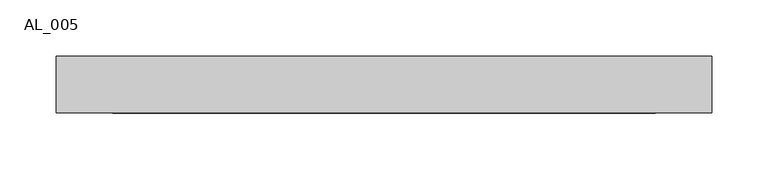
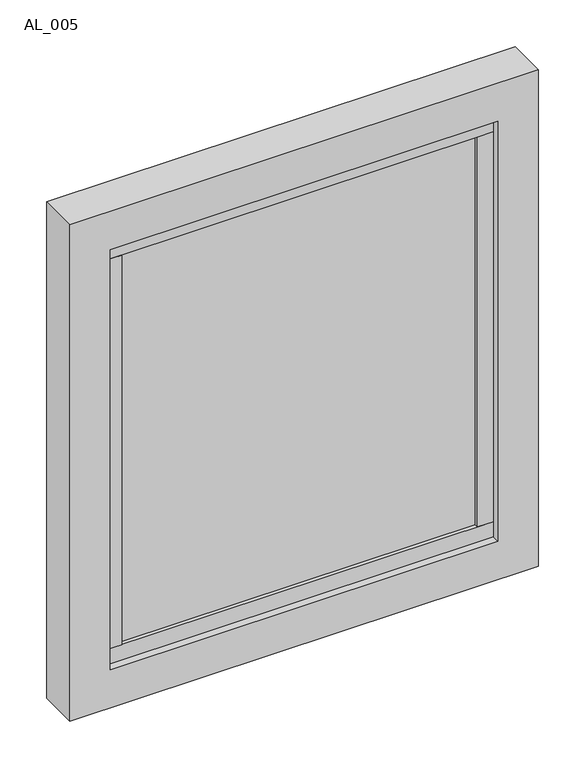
"""IFC4 building model written with IfcOpenShell, lengths in millimetres: plate geometry, TRP_CP_ARC_PF_RE : AL_005."""

from ifc_helpers import new_model, si_unit, frame, origin, place, context, project, spatial, polyline, outline, extrude, source, transform, mapped, element, save


def al_005_4a535399(model_context):
    return source(origin(), model_context, "Body", "SweptSolid", [
        extrude(outline(polyline([(220.0, -10.0), (-220.0, -10.0), (-220.0, 10.0), (220.0, 10.0), (220.0, -10.0)])), frame((0.0, 0.0, 70.0), z_axis=(0.0, 0.0, 1.0), x_axis=(1.0, 0.0, 0.0)), (0.0, 0.0, 1.0), 509.970898),
        extrude(outline(polyline([(240.0, -15.0), (220.0, -15.0), (220.0, 15.0), (240.0, 15.0), (240.0, -15.0)])), frame((0.0, 0.0, 70.0), z_axis=(0.0, 0.0, 1.0), x_axis=(1.0, 0.0, 0.0)), (0.0, 0.0, 1.0), 509.970898),
        extrude(outline(polyline([(-220.0, -15.0), (-240.0, -15.0), (-240.0, 15.0), (-220.0, 15.0), (-220.0, -15.0)])), frame((0.0, 0.0, 70.0), z_axis=(0.0, 0.0, 1.0), x_axis=(1.0, 0.0, 0.0)), (0.0, 0.0, 1.0), 509.970898),
        extrude(outline(polyline([(240.0, -15.0), (-240.0, -15.0), (-240.0, 15.0), (240.0, 15.0), (240.0, -15.0)])), frame((0.0, 0.0, 50.0), z_axis=(0.0, 0.0, 1.0), x_axis=(1.0, 0.0, 0.0)), (0.0, 0.0, 1.0), 20.0),
        extrude(outline(polyline([(240.0, -15.0), (-240.0, -15.0), (-240.0, 15.0), (240.0, 15.0), (240.0, -15.0)])), frame((0.0, 0.0, 579.970898), z_axis=(0.0, 0.0, 1.0), x_axis=(1.0, 0.0, 0.0)), (0.0, 0.0, 1.0), 20.0),
        extrude(outline(polyline([(649.970898, 290.0), (649.970898, -290.0), (0.0, -290.0), (0.0, 290.0), (649.970898, 290.0)]), holes=[polyline([(50.0, 240.0), (50.0, -240.0), (599.970898, -240.0), (599.970898, 240.0), (50.0, 240.0)])]), frame((0.0, -25.0, 0.0), z_axis=(0.0, 1.0, 0.0), x_axis=(0.0, 0.0, 1.0)), (0.0, 0.0, 1.0), 50.0),
    ])


if __name__ == "__main__":
    model = new_model("IFC4")
    model_context = context("Model", 3, world=origin())
    ifc_project = project(units=[si_unit("LENGTHUNIT", "METRE", prefix="MILLI")], contexts=[model_context])
    site = spatial("IfcSite", under=ifc_project)
    building = spatial("IfcBuilding", under=site)
    placement = place(None, origin())
    al_005_shape = al_005_4a535399(model_context)
    element("IfcPlate", 1, ObjectType="TRP_CP_ARC_PF_RE : AL_005", at=placement, inside=building, context=model_context, shape_type="MappedRepresentation", body=[
        mapped(al_005_shape, transform((0.0, 0.0, 0.0), x_axis=(1.0, 0.0, 0.0), y_axis=(0.0, 1.0, 0.0), z_axis=(0.0, 0.0, 1.0))),
    ])
    save(model, "model.ifc")
